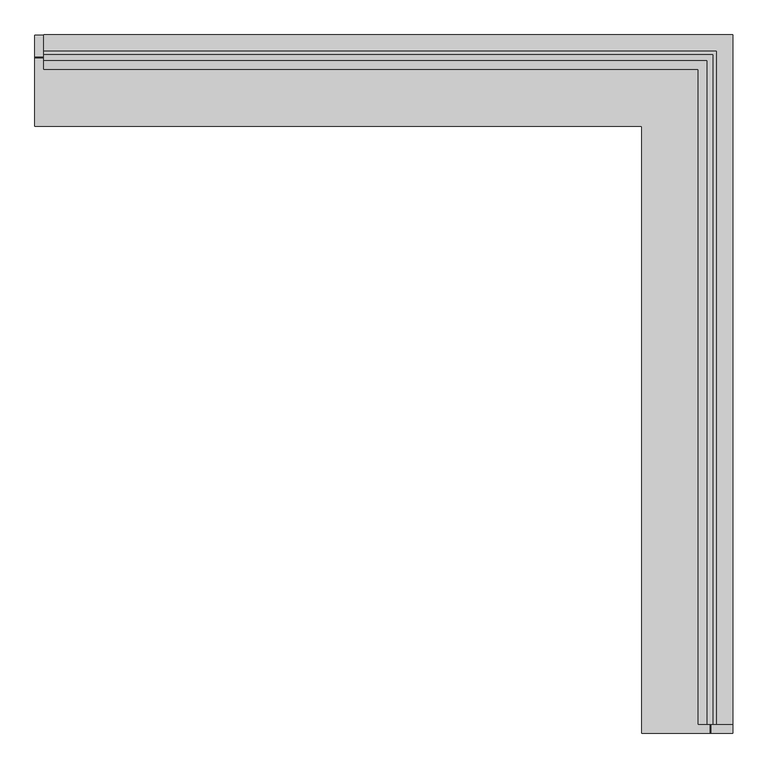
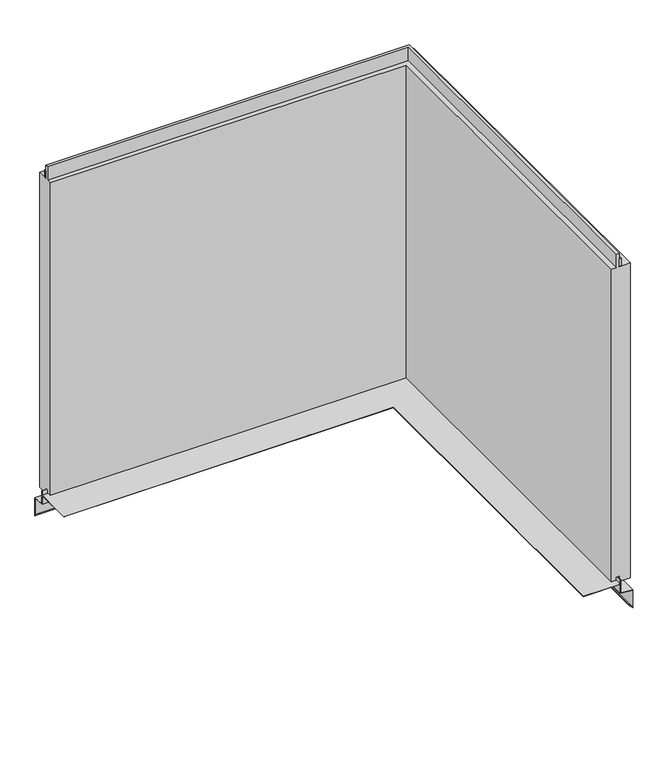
"""IFC4 building model written with IfcOpenShell, lengths in millimetres: plate geometry, Trimo_Qbiss Screen_L Corner Panel-HORIZONTAL : HR - B."""

from ifc_helpers import new_model, si_unit, frame, origin, place, context, project, spatial, polyline, outline, extrude, faceted_brep, source, transform, mapped, element, save


def plate_559b6195(model_context):
    return source(origin(), model_context, "Body", "SolidModel", [
        faceted_brep([(-456.25, 66.7, 14.0835797), (522.95, 66.7, 14.0835797), (522.95, -912.5, 14.0835797), (523.75, -912.5, 14.0835797), (523.75, 67.5, 14.0835797), (-456.25, 67.5, 14.0835797), (523.75, 67.5, -23.0), (-456.25, 67.5, -23.0), (556.25, 100.0, -25.8433816), (-456.25, 100.0, -25.8433816), (556.25, 100.0, -76.0), (-456.25, 100.0, -76.0), (543.4009533, 87.1509533, -63.1509533), (-456.25, 87.1509533, -63.1509533), (543.9666388, 87.7166388, -62.5852679), (-456.25, 87.7166388, -62.5852679), (555.45, 99.2, -74.0686292), (-456.25, 99.2, -74.0686292), (555.45, 99.2, -26.5764465), (-456.25, 99.2, -26.5764465), (522.95, 66.7, -23.7330649), (-456.25, 66.7, -23.7330649), (522.95, 66.7, 1.0), (-456.25, 66.7, 1.0), (522.95, -912.5, 1.0), (423.75, -912.5, 1.0), (423.75, -32.5, 1.0), (-456.25, -32.5, 1.0), (-456.25, -32.5, 1.8), (423.75, -32.5, 1.8), (423.75, -912.5, 1.8), (522.95, -912.5, 1.8), (522.95, 66.7, 1.8), (-456.25, 66.7, 1.8), (523.75, -912.5, -23.0), (556.25, -912.5, -25.8433816), (556.25, -912.5, -76.0), (543.4009533, -912.5, -63.1509533), (543.9666388, -912.5, -62.5852679), (555.45, -912.5, -74.0686292), (555.45, -912.5, -26.5764465), (522.95, -912.5, -23.7330649)], [[[0, 1, 2, 3, 4, 5]], [[4, 6, 7, 5]], [[6, 8, 9, 7]], [[8, 10, 11, 9]], [[10, 12, 13, 11]], [[12, 14, 15, 13]], [[14, 16, 17, 15]], [[16, 18, 19, 17]], [[18, 20, 21, 19]], [[20, 22, 23, 21]], [[23, 22, 24, 25, 26, 27]], [[28, 29, 30, 31, 32, 33]], [[32, 1, 0, 33]], [[6, 4, 3, 34]], [[8, 6, 34, 35]], [[10, 8, 35, 36]], [[12, 10, 36, 37]], [[14, 12, 37, 38]], [[16, 14, 38, 39]], [[18, 16, 39, 40]], [[20, 18, 40, 41]], [[22, 20, 41, 24]], [[1, 32, 31, 2]], [[0, 5, 7, 9, 11, 13, 15, 17, 19, 21, 23, 27, 28, 33]], [[3, 2, 31, 30, 25, 24, 41, 40, 39, 38, 37, 36, 35, 34]], [[26, 29, 28, 27]], [[29, 26, 25, 30]]]),
        extrude(outline(polyline([(-443.75, 71.0), (-443.75, 76.0), (532.25, 76.0), (532.25, -900.0), (527.25, -900.0), (527.25, 71.0), (-443.75, 71.0)])), frame((0.0, 0.0, 890.5), z_axis=(0.0, 0.0, 1.0), x_axis=(1.0, 0.0, 0.0)), (0.0, 0.0, 1.0), 21.0),
        faceted_brep([(-443.75, 71.0, 889.5), (-443.75, 100.0, 889.5), (-443.75, 100.0, 0.0), (-443.75, 72.0, 0.0), (-443.75, 72.0, 15.5), (-443.75, 62.0, 15.5), (-443.75, 62.0, 7.0), (-443.75, 50.0, 7.0), (-443.75, 50.0, 889.5), (-443.75, 63.0, 889.5), (-443.75, 63.0, 927.0), (-443.75, 71.0, 927.0), (527.25, 71.0, 889.5), (527.25, -900.0, 889.5), (556.25, -900.0, 889.5), (556.25, 100.0, 889.5), (556.25, 100.0, 0.0), (556.25, -900.0, 0.0), (528.25, -900.0, 0.0), (528.25, 72.0, 0.0), (528.25, 72.0, 15.5), (528.25, -900.0, 15.5), (518.25, -900.0, 15.5), (518.25, 62.0, 15.5), (518.25, 62.0, 7.0), (518.25, -900.0, 7.0), (506.25, -900.0, 7.0), (506.25, 50.0, 7.0), (506.25, 50.0, 889.5), (506.25, -900.0, 889.5), (519.25, -900.0, 889.5), (519.25, 63.0, 889.5), (519.25, 63.0, 927.0), (519.25, -900.0, 927.0), (527.25, -900.0, 927.0), (527.25, 71.0, 927.0)], [[[0, 1, 2, 3, 4, 5, 6, 7, 8, 9, 10, 11]], [[1, 0, 12, 13, 14, 15]], [[2, 1, 15, 16]], [[3, 2, 16, 17, 18, 19]], [[4, 3, 19, 20]], [[5, 4, 20, 21, 22, 23]], [[6, 5, 23, 24]], [[7, 6, 24, 25, 26, 27]], [[8, 7, 27, 28]], [[9, 8, 28, 29, 30, 31]], [[10, 9, 31, 32]], [[11, 10, 32, 33, 34, 35]], [[0, 11, 35, 12]], [[13, 34, 33, 30, 29, 26, 25, 22, 21, 18, 17, 14]], [[16, 15, 14, 17]], [[20, 19, 18, 21]], [[24, 23, 22, 25]], [[28, 27, 26, 29]], [[32, 31, 30, 33]], [[12, 35, 34, 13]]]),
    ])


if __name__ == "__main__":
    model = new_model("IFC4")
    model_context = context("Model", 3, world=origin())
    ifc_project = project(units=[si_unit("LENGTHUNIT", "METRE", prefix="MILLI")], contexts=[model_context])
    site = spatial("IfcSite", under=ifc_project)
    building = spatial("IfcBuilding", under=site)
    placement = place(None, origin())
    plate_shape = plate_559b6195(model_context)
    element("IfcPlate", 1, ObjectType="Trimo_Qbiss Screen_L Corner Panel-HORIZONTAL : HR - B", at=placement, inside=building, context=model_context, shape_type="MappedRepresentation", body=[
        mapped(plate_shape, transform((0.0, 0.0, 0.0), x_axis=(1.0, 0.0, 0.0), y_axis=(0.0, 1.0, 0.0), z_axis=(0.0, 0.0, 1.0))),
    ])
    save(model, "model.ifc")
